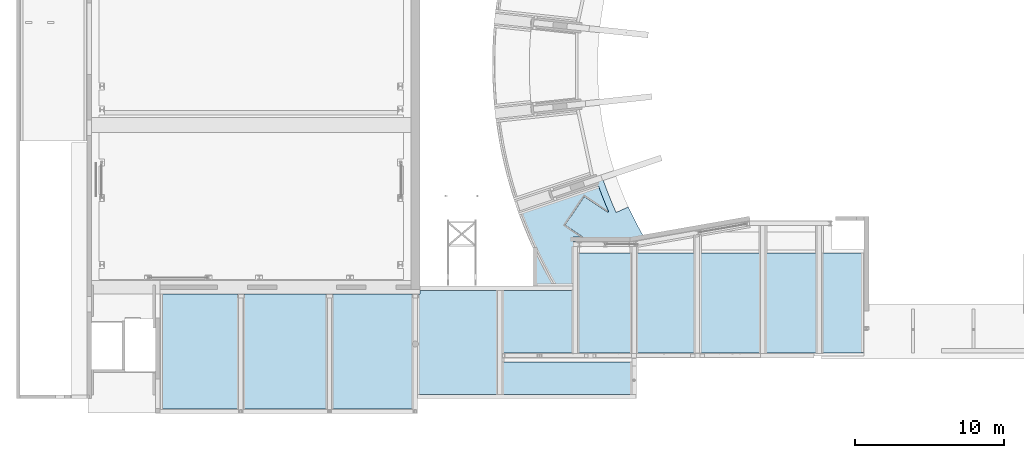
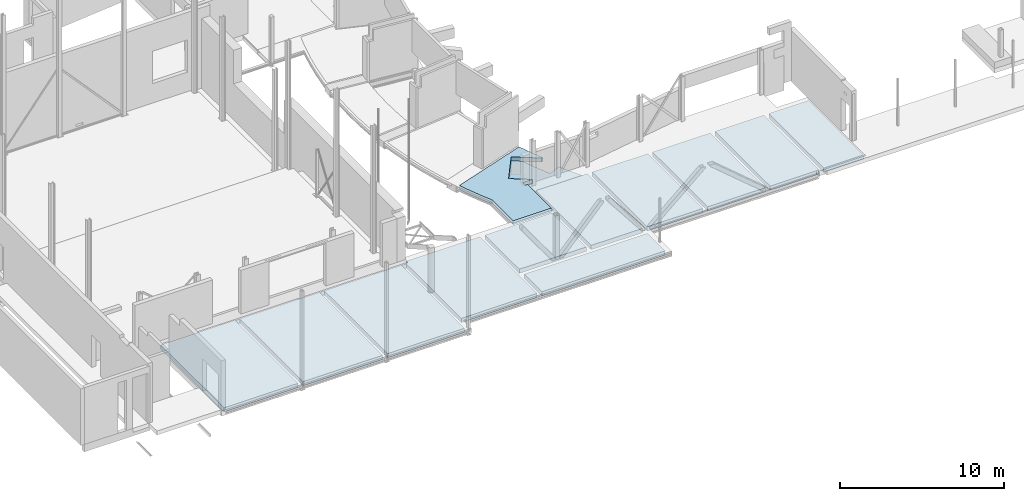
# One storey, part 23 of 37: 3 slabs, 20 openings.
"""IFC2X3 building model written with IfcOpenShell, lengths in millimetres."""

import ifcopenshell
import ifcopenshell.guid

model = None  # the IFC model being written
_history = None  # IfcOwnerHistory: only IFC2X3 demands one
_inside = {}  # id of a spatial element -> (the spatial element, [elements in it])
_under = {}  # id of a project, library or spatial element -> (it, [spatial elements below it])
_declared = {}  # id of a project -> (the project, [libraries it declares])
_typed = {}  # id of a type object -> (the type object, [elements of that type])
_made_of = {}  # id of a material, layer set ... -> (it, [elements and type objects made of it])


def new_model(schema):
    """Start an empty IFC model of exactly this schema.

    Asked for "IFC4X3", IfcOpenShell would pick the latest addendum, in which some entities
    have other attributes; the version numbers below select the first issue.
    IFC2X3 requires an IfcOwnerHistory on every rooted entity: one is made here for all.
    """
    global model, _history
    if schema == "IFC4X3":
        model = ifcopenshell.file(schema_version=(4, 3, 0, 0))
    else:
        model = ifcopenshell.file(schema=schema)
    _inside.clear()
    _under.clear()
    _declared.clear()
    _typed.clear()
    _made_of.clear()
    _history = None
    if model.schema == "IFC2X3":
        org = make("IfcOrganization", Name="unknown")
        user = make(
            "IfcPersonAndOrganization",
            ThePerson=make("IfcPerson", FamilyName="unknown"),
            TheOrganization=org,
        )
        app = make(
            "IfcApplication",
            ApplicationDeveloper=org,
            Version="unknown",
            ApplicationFullName="unknown",
            ApplicationIdentifier="unknown",
        )
        _history = make(
            "IfcOwnerHistory",
            OwningUser=user,
            OwningApplication=app,
            ChangeAction="ADDED",
            CreationDate=0,
        )
    return model


def make(cls, **values):
    """One entity of the class cls with the attributes given. An attribute that is None is left unset."""
    return model.create_entity(
        cls, **{name: value for name, value in values.items() if value is not None}
    )


def entity(cls, *values):
    """Any entity or typed value of the class cls, its attributes in the order of the schema. None: left unset."""
    e = model.create_entity(cls)
    for i, value in enumerate(values):
        if value is not None:
            e[i] = value
    return e


def rooted(cls, **values):
    """An entity with a GlobalId (a new one), such as an element, a storey or a relation."""
    return make(cls, GlobalId=ifcopenshell.guid.new(), OwnerHistory=_history, **values)


def si_unit(unit_type, name, prefix=None):
    """IfcSIUnit, for example si_unit("LENGTHUNIT", "METRE", prefix="MILLI")."""
    return make("IfcSIUnit", UnitType=unit_type, Prefix=prefix, Name=name)


def converted_unit(unit_type, name, factor, base, dimensions=None, offset=None):
    """IfcConversionBasedUnit, such as the inch: factor (a typed value) times the base unit."""
    return make(
        "IfcConversionBasedUnit"
        if offset is None
        else "IfcConversionBasedUnitWithOffset",
        ConversionOffset=offset,
        Dimensions=None
        if dimensions is None
        else entity("IfcDimensionalExponents", *dimensions),
        UnitType=unit_type,
        Name=name,
        ConversionFactor=make(
            "IfcMeasureWithUnit", ValueComponent=factor, UnitComponent=base
        ),
    )


def derived_unit(unit_type, elements):
    """IfcDerivedUnit: a product of units, each with its exponent."""
    return make(
        "IfcDerivedUnit",
        Elements=[
            make("IfcDerivedUnitElement", Unit=unit, Exponent=power)
            for unit, power in elements
        ],
        UnitType=unit_type,
    )


def assignment(units):
    """IfcUnitAssignment: the units of a project."""
    return None if units is None else make("IfcUnitAssignment", Units=units)


def point(xyz):
    """IfcCartesianPoint."""
    return None if xyz is None else make("IfcCartesianPoint", Coordinates=xyz)


def direction(xyz):
    """IfcDirection."""
    return None if xyz is None else make("IfcDirection", DirectionRatios=xyz)


def frame(location, z_axis=None, x_axis=None):
    """IfcAxis2Placement3D, a coordinate frame: its origin and axes. An axis left out is left unset."""
    return make(
        "IfcAxis2Placement3D",
        Location=point(location),
        Axis=direction(z_axis),
        RefDirection=direction(x_axis),
    )


def frame_2d(location, x_axis=None):
    """IfcAxis2Placement2D, a coordinate frame in the plane: its origin and x axis."""
    return make(
        "IfcAxis2Placement2D", Location=point(location), RefDirection=direction(x_axis)
    )


def origin():
    """The frame at (0, 0, 0) with its axes left unset."""
    return frame((0.0, 0.0, 0.0))


def origin_2d_with_axis():
    """The frame at (0, 0) in the plane with the x axis (1, 0) written out."""
    return frame_2d((0.0, 0.0), x_axis=(1.0, 0.0))


def place(relative_to, where):
    """IfcLocalPlacement: puts the frame where relative to a parent placement (None: the world)."""
    return make(
        "IfcLocalPlacement", PlacementRelTo=relative_to, RelativePlacement=where
    )


def context(
    kind, dimensions, precision=None, world=None, true_north=None, identifier=None
):
    """IfcGeometricRepresentationContext, for example the 3D "Model" context."""
    return make(
        "IfcGeometricRepresentationContext",
        ContextIdentifier=identifier,
        ContextType=kind,
        CoordinateSpaceDimension=dimensions,
        Precision=precision,
        WorldCoordinateSystem=world,
        TrueNorth=true_north,
    )


def subcontext(parent, identifier, kind, view, scale=None):
    """IfcGeometricRepresentationSubContext, for example "Body" below "Model"."""
    return make(
        "IfcGeometricRepresentationSubContext",
        ContextIdentifier=identifier,
        ContextType=kind,
        ParentContext=parent,
        TargetScale=scale,
        TargetView=view,
    )


def project(units=None, contexts=None):
    """IfcProject with its units and contexts."""
    return rooted(
        "IfcProject",
        Name="project",
        RepresentationContexts=contexts,
        UnitsInContext=assignment(units),
    )


def spatial(cls, under=None, at=None, **own):
    """A site, building, storey or space (cls), placed at a placement, below another one or the project."""
    s = rooted(cls, ObjectPlacement=at, **own)
    if under is not None:
        _under.setdefault(under.id(), (under, []))[1].append(s)
    return s


def polyline(points):
    """IfcPolyline through the points."""
    return make("IfcPolyline", Points=[point(p) for p in points])


def circle_curve(where, radius):
    """IfcCircle in the frame where."""
    return make("IfcCircle", Position=where, Radius=radius)


def parameter(value):
    """IfcParameterValue: where a trimmed curve begins or ends, as a parameter of its basis curve."""
    return model.create_entity("IfcParameterValue", value)


def trimmed(basis, trim1, trim2, sense, master):
    """IfcTrimmedCurve: the piece of a basis curve between two trims."""
    return make(
        "IfcTrimmedCurve",
        BasisCurve=basis,
        Trim1=trim1,
        Trim2=trim2,
        SenseAgreement=sense,
        MasterRepresentation=master,
    )


def segment(curve, same_sense, transition):
    """IfcCompositeCurveSegment."""
    return make(
        "IfcCompositeCurveSegment",
        Transition=transition,
        SameSense=same_sense,
        ParentCurve=curve,
    )


def composite_curve(segments, self_intersect=None):
    """IfcCompositeCurve: segments joined end to end."""
    return make("IfcCompositeCurve", Segments=segments, SelfIntersect=self_intersect)


def profile(cls, at=None, kind="AREA", **sizes):
    """A parametric profile (cls). Its sizes go by their IFC names, for example OverallWidth=200.0."""
    return make(cls, ProfileType=kind, Position=at, **sizes)


def rectangle(**sizes):
    """IfcRectangleProfileDef."""
    return profile("IfcRectangleProfileDef", **sizes)


def outline(outer, holes=None, kind="AREA"):
    """IfcArbitraryClosedProfileDef: a profile drawn as a closed curve; with holes, ...WithVoids."""
    if holes is None:
        return make("IfcArbitraryClosedProfileDef", ProfileType=kind, OuterCurve=outer)
    return make(
        "IfcArbitraryProfileDefWithVoids",
        ProfileType=kind,
        OuterCurve=outer,
        InnerCurves=holes,
    )


def extrude(swept, where, along, depth):
    """IfcExtrudedAreaSolid: the profile swept, set in the frame where, extruded along a direction by depth."""
    return make(
        "IfcExtrudedAreaSolid",
        SweptArea=swept,
        Position=where,
        ExtrudedDirection=direction(along),
        Depth=depth,
    )


def faces_of(points, faces, orient=None, outer=None):
    """IfcFace entities. A face is a list of loops; a loop is a list of indices into points, from 0.

    orient and outer hold one flag for each loop. By default every Orientation is true, the
    first loop of a face is its IfcFaceOuterBound and the others are IfcFaceBound.
    """
    made = []
    for i, loops in enumerate(faces):
        bounds = []
        for j, loop in enumerate(loops):
            is_outer = j == 0 if outer is None else outer[i][j]
            bounds.append(
                make(
                    "IfcFaceOuterBound" if is_outer else "IfcFaceBound",
                    Bound=make("IfcPolyLoop", Polygon=[points[k] for k in loop]),
                    Orientation=True if orient is None else orient[i][j],
                )
            )
        made.append(make("IfcFace", Bounds=bounds))
    return made


def faceted_brep(points, faces, orient=None, outer=None, voids=None):
    """IfcFacetedBrep: a solid bounded by flat faces; with voids (closed shells), ...WithVoids."""
    shared = [point(p) for p in points]
    hull = make("IfcClosedShell", CfsFaces=faces_of(shared, faces, orient, outer))
    if voids is None:
        return make("IfcFacetedBrep", Outer=hull)
    return make(
        "IfcFacetedBrepWithVoids",
        Outer=hull,
        Voids=[
            make(cls, CfsFaces=faces_of(shared, fs, o, b)) for cls, fs, o, b in voids
        ],
    )


def shape(context_of_items, identifier, shape_type, items):
    """IfcShapeRepresentation: the items that make up one representation, for example the "Body"."""
    return make(
        "IfcShapeRepresentation",
        ContextOfItems=context_of_items,
        RepresentationIdentifier=identifier,
        RepresentationType=shape_type,
        Items=items,
    )


def material(Name=None, Category=None):
    """IfcMaterial."""
    return make("IfcMaterial", Name=Name, Category=Category)


def layer(
    of_material, thickness, ventilated=None, Name=None, Category=None, Priority=None
):
    """IfcMaterialLayer: one layer of a wall or slab, of a material (None: an air gap)."""
    return make(
        "IfcMaterialLayer",
        Material=of_material,
        LayerThickness=thickness,
        IsVentilated=ventilated,
        Name=Name,
        Category=Category,
        Priority=Priority,
    )


def layer_set(layers, Name=None):
    """IfcMaterialLayerSet."""
    return make("IfcMaterialLayerSet", MaterialLayers=layers, LayerSetName=Name)


def layer_usage(for_layer_set, set_direction, sense, offset, extent=None):
    """IfcMaterialLayerSetUsage: how a layer set lies in its element."""
    return make(
        "IfcMaterialLayerSetUsage",
        ForLayerSet=for_layer_set,
        LayerSetDirection=set_direction,
        DirectionSense=sense,
        OffsetFromReferenceLine=offset,
        ReferenceExtent=extent,
    )


def made_of(thing, what):
    """Note that an element or type object is made of a material, layer set ...; save() writes the relation."""
    if what is not None:
        _made_of.setdefault(what.id(), (what, []))[1].append(thing)
    return thing


def type_object(cls, material=None, **own):
    """A type object (cls), such as IfcWallType, which elements share."""
    return made_of(rooted(cls, **own), material)


def element(
    cls,
    number,
    at=None,
    inside=None,
    cuts=None,
    type_object=None,
    material=None,
    context=None,
    identifier="Body",
    shape_type=None,
    held_by="IfcProductDefinitionShape",
    body=None,
    shapes=None,
    **own,
):
    """One element of the class cls, such as IfcWall. Its Tag is "e" and its number.

    at: its placement. inside: the storey or other place that contains it. cuts: it is an
    opening in that element (IfcRelVoidsElement). A single representation is given by context,
    identifier, shape_type and body (its items); several are given by shapes. held_by: the class
    of the entity that holds the representations. save() writes the other relations.
    """
    e = rooted(cls, Tag="e%d" % number, ObjectPlacement=at, **own)
    if body is not None:
        shapes = [shape(context, identifier, shape_type, body)]
    if shapes is not None:
        e.Representation = make(held_by, Representations=shapes)
    if inside is not None:
        _inside.setdefault(inside.id(), (inside, []))[1].append(e)
    if cuts is not None:
        rooted(
            "IfcRelVoidsElement", RelatingBuildingElement=cuts, RelatedOpeningElement=e
        )
    if type_object is not None:
        _typed.setdefault(type_object.id(), (type_object, []))[1].append(e)
    return made_of(e, material)


def aggregate(whole, parts):
    """IfcRelAggregates: a whole, such as a stair, and the parts it consists of."""
    return rooted("IfcRelAggregates", RelatingObject=whole, RelatedObjects=parts)


def save(model, path):
    """Write the relations noted so far, then the file.

    IfcRelAggregates (storeys below a building ...), IfcRelContainedInSpatialStructure (elements
    in a storey), IfcRelDefinesByType, IfcRelAssociatesMaterial and IfcRelDeclares: one each for
    every whole, place, type object, material and project.
    """
    for whole, parts in _under.values():
        aggregate(whole, parts)
    for where, things in _inside.values():
        rooted(
            "IfcRelContainedInSpatialStructure",
            RelatedElements=things,
            RelatingStructure=where,
        )
    for kind, things in _typed.values():
        rooted("IfcRelDefinesByType", RelatedObjects=things, RelatingType=kind)
    for what, things in _made_of.values():
        rooted("IfcRelAssociatesMaterial", RelatedObjects=things, RelatingMaterial=what)
    for by, libraries in _declared.values():
        rooted("IfcRelDeclares", RelatingContext=by, RelatedDefinitions=libraries)
    model.write(path)


model = new_model("IFC2X3")

# Units and contexts
model_context = context("Model", 3, precision=0.01, world=origin(), true_north=direction((6.12303176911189e-17, 1.0)))
body_context = subcontext(model_context, "Body", "Model", "MODEL_VIEW")
ifc_project = project(units=[si_unit("LENGTHUNIT", "METRE", prefix="MILLI"), si_unit("AREAUNIT", "SQUARE_METRE", prefix="MILLI"), si_unit("VOLUMEUNIT", "CUBIC_METRE"), converted_unit("PLANEANGLEUNIT", "DEGREE", entity("IfcRatioMeasure", 0.0174532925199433), si_unit("PLANEANGLEUNIT", "RADIAN"), dimensions=[0, 0, 0, 0, 0, 0, 0]), si_unit("MASSUNIT", "GRAM", prefix="KILO"), derived_unit("MASSDENSITYUNIT", [(si_unit("MASSUNIT", "GRAM", prefix="KILO"), 1), (si_unit("LENGTHUNIT", "METRE"), -3)]), derived_unit("MOMENTOFINERTIAUNIT", [(si_unit("LENGTHUNIT", "METRE"), 4)]), si_unit("TIMEUNIT", "SECOND"), si_unit("FREQUENCYUNIT", "HERTZ"), si_unit("THERMODYNAMICTEMPERATUREUNIT", "DEGREE_CELSIUS"), derived_unit("THERMALTRANSMITTANCEUNIT", [(si_unit("MASSUNIT", "GRAM", prefix="KILO"), 1), (si_unit("THERMODYNAMICTEMPERATUREUNIT", "KELVIN"), -1), (si_unit("TIMEUNIT", "SECOND"), -3)]), derived_unit("VOLUMETRICFLOWRATEUNIT", [(si_unit("LENGTHUNIT", "METRE"), 3), (si_unit("TIMEUNIT", "SECOND"), -1)]), si_unit("ELECTRICCURRENTUNIT", "AMPERE"), si_unit("ELECTRICVOLTAGEUNIT", "VOLT"), si_unit("POWERUNIT", "WATT"), si_unit("FORCEUNIT", "NEWTON", prefix="KILO"), si_unit("ILLUMINANCEUNIT", "LUX"), si_unit("LUMINOUSFLUXUNIT", "LUMEN"), si_unit("LUMINOUSINTENSITYUNIT", "CANDELA"), derived_unit("USERDEFINED", [(si_unit("MASSUNIT", "GRAM", prefix="KILO"), -1), (si_unit("LENGTHUNIT", "METRE"), -2), (si_unit("TIMEUNIT", "SECOND"), 3), (si_unit("LUMINOUSFLUXUNIT", "LUMEN"), 1)]), derived_unit("LINEARVELOCITYUNIT", [(si_unit("LENGTHUNIT", "METRE"), 1), (si_unit("TIMEUNIT", "SECOND"), -1)]), si_unit("PRESSUREUNIT", "PASCAL"), derived_unit("USERDEFINED", [(si_unit("LENGTHUNIT", "METRE"), -2), (si_unit("MASSUNIT", "GRAM", prefix="KILO"), 1), (si_unit("TIMEUNIT", "SECOND"), -2)]), derived_unit("LINEARFORCEUNIT", [(si_unit("MASSUNIT", "GRAM", prefix="KILO"), 1), (si_unit("LENGTHUNIT", "METRE"), 1), (si_unit("TIMEUNIT", "SECOND"), -2), (si_unit("LENGTHUNIT", "METRE"), -1)]), derived_unit("PLANARFORCEUNIT", [(si_unit("MASSUNIT", "GRAM", prefix="KILO"), 1), (si_unit("LENGTHUNIT", "METRE"), 1), (si_unit("TIMEUNIT", "SECOND"), -2), (si_unit("LENGTHUNIT", "METRE"), -2)])], contexts=[model_context])

# Site, building, storey
site_placement = place(None, origin())
site = spatial("IfcSite", under=ifc_project, at=site_placement, Name="Theater aan de Parade", CompositionType="ELEMENT")
building_placement = place(site_placement, origin())
building = spatial("IfcBuilding", under=site, at=building_placement, Name="Theater aan de Parade", CompositionType="ELEMENT")
storey_placement = place(building_placement, frame((0.0, 0.0, 5020.0)))
storey = spatial("IfcBuildingStorey", under=building, at=storey_placement, Name="01 eerste verdieping", CompositionType="ELEMENT", Elevation=5020.0)

# Slab
ifc_material_1 = material(Name="00_PBT_MAT_beton t.p.g.")
ifc_layer_1 = layer(ifc_material_1, 490.0)
ifc_layer_set_1 = layer_set([ifc_layer_1], Name="Floor:28_PBT_FL_beton t.p.g._d=490_bestaand")
ifc_layer_usage_1 = layer_usage(ifc_layer_set_1, "AXIS3", "POSITIVE", 0.0)
slab_type_1 = type_object("IfcSlabType", Name="Floor:28_PBT_FL_beton t.p.g._d=490_bestaand", PredefinedType="FLOOR", material=ifc_layer_set_1)
slab_1_placement = place(storey_placement, origin())
element("IfcSlab", 1, at=slab_1_placement, inside=storey, type_object=slab_type_1, material=ifc_layer_usage_1, Name="Floor:28_PBT_FL_beton t.p.g._d=490_bestaand", ObjectType="Floor:28_PBT_FL_beton t.p.g._d=490_bestaand", PredefinedType="FLOOR", context=body_context, shape_type="SweptSolid", body=[
    extrude(outline(composite_curve([segment(polyline([(-1650.64059162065, -1758.53778649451), (2478.36577756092, -1758.5377864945)]), True, "CONTINUOUS"), segment(trimmed(circle_curve(frame_2d((-22300.3028341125, 10061.4622135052), x_axis=(0.902568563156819, -0.430546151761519)), 27453.5028396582), [parameter(0.0)], [parameter(7.46901130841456)], True, "PARAMETER"), True, "CONTINUOUS"), segment(polyline([(3804.6076632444, 1562.72900836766), (273.387526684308, 2744.26305707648)]), True, "CONTINUOUS"), segment(trimmed(circle_curve(frame_2d((-22300.3028341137, 10061.4622135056), x_axis=(0.951272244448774, -0.308352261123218)), 23730.0000000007), [parameter(353.428540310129)], [parameter(0.0)], True, "PARAMETER"), False, "CONTINUOUS"), segment(polyline([(-712.321197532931, 208.95243890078), (-1531.08156301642, 582.625375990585)]), True, "CONTINUOUS"), segment(trimmed(circle_curve(frame_2d((-22300.30283411, 10061.4622135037), x_axis=(0.909733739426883, -0.415192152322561)), 22829.9999999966), [parameter(353.868590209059)], [parameter(0.0)], True, "PARAMETER"), False, "CONTINUOUS"), segment(polyline([(-2662.31761531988, -1581.49430734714), (-1650.64059162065, -1758.53778649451)]), True, "CONTINUOUS")], self_intersect=False)), frame((49959.697165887, 22388.5377864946, -1420.0), z_axis=(0.0, 0.0, -1.0), x_axis=(-1.0, 0.0, 0.0)), (0.0, 0.0, 1.0), 290.0),
])

# Slab, openings
ifc_material_2 = material(Name="00_PBT_MAT_systeemvloer")
ifc_layer_2 = layer(ifc_material_2, 320.0)
ifc_layer_set_2 = layer_set([ifc_layer_2], Name="Floor:28_PBT_FL_kanaalplaat_d=320")
ifc_layer_usage_2 = layer_usage(ifc_layer_set_2, "AXIS3", "POSITIVE", 0.0)
slab_type_2 = type_object("IfcSlabType", Name="Floor:28_PBT_FL_kanaalplaat_d=320", PredefinedType="FLOOR")
slab_2_placement = place(storey_placement, frame((20003.857002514, 9357.0, -460.0)))
slab_2 = element("IfcSlab", 2, at=slab_2_placement, inside=storey, type_object=slab_type_2, material=ifc_layer_usage_2, Name="Floor:28_PBT_FL_kanaalplaat_d=320", ObjectType="Floor:28_PBT_FL_kanaalplaat_d=320", PredefinedType="FLOOR", context=body_context, shape_type="SweptSolid", body=[
    extrude(outline(polyline([(6513.69842165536, -6192.74707946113), (23656.1995492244, -6192.74707946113), (23656.1995492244, 1799.63837251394), (6206.1984216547, 1799.63837251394), (6206.1984216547, 2188.574301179), (-4268.10496909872, 2188.574301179), (-4268.10496909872, 4554.67007438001), (-23656.1995492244, 4554.67007437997), (-23656.1995492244, -2161.67007438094), (-20334.49552377, -2161.67007438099), (-20334.49552377, -2356.67007438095), (815.504476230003, -2356.67007438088), (815.504476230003, -2791.67007438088), (-8208.4986079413, -2791.67007438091), (-8208.4986079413, -5114.67007438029), (6513.69842165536, -5114.67007438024), (6513.69842165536, -6192.74707946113)])), frame((23656.1995492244, 5954.67007438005, 320.0), z_axis=(0.0, 0.0, -1.0), x_axis=(-1.0, 0.0, 0.0)), (0.0, 0.0, 1.0), 320.0),
])
opening_1_placement = place(slab_2_placement, origin())
element("IfcOpeningElement", 3, at=opening_1_placement, cuts=slab_2, ObjectType="Opening", context=body_context, shape_type="SweptSolid", body=[
    extrude(rectangle(XDim=8014.30844689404, YDim=339.999999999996, at=origin_2d_with_axis()), frame((5406.14299748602, 3707.15422344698, -85.0), z_axis=(0.0, 0.0, 1.0), x_axis=(0.0, -1.0, 0.0)), (0.0, 0.0, 1.0), 405.0),
])
opening_2_placement = place(slab_2_placement, origin())
element("IfcOpeningElement", 4, at=opening_2_placement, cuts=slab_2, ObjectType="Opening", context=body_context, shape_type="SweptSolid", body=[
    extrude(rectangle(XDim=8014.30844689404, YDim=339.999999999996, at=origin_2d_with_axis()), frame((11371.142997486, 3707.15422344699, -85.0), z_axis=(0.0, 0.0, 1.0), x_axis=(0.0, -1.0, 0.0)), (0.0, 0.0, 1.0), 405.0),
])
opening_3_placement = place(slab_2_placement, origin())
element("IfcOpeningElement", 5, at=opening_3_placement, cuts=slab_2, ObjectType="Opening", context=body_context, shape_type="SweptSolid", body=[
    extrude(rectangle(XDim=8014.30844689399, YDim=339.999999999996, at=origin_2d_with_axis()), frame((17150.0011275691, 3707.15422344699, -85.0), z_axis=(0.0, 0.0, 1.0), x_axis=(0.0, -1.0, 0.0)), (0.0, 0.0, 1.0), 405.0),
])
opening_4_placement = place(slab_2_placement, origin())
element("IfcOpeningElement", 6, at=opening_4_placement, cuts=slab_2, ObjectType="Opening", context=body_context, shape_type="SweptSolid", body=[
    extrude(rectangle(XDim=5665.00000000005, YDim=320.000000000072, at=origin_2d_with_axis()), frame((8388.642997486, -160.0, 0.0), z_axis=(0.0, 0.0, 1.0), x_axis=(-1.0, 0.0, 0.0)), (0.0, 0.0, 1.0), 320.0),
])
opening_5_placement = place(slab_2_placement, origin())
element("IfcOpeningElement", 7, at=opening_5_placement, cuts=slab_2, ObjectType="Opening", context=body_context, shape_type="SweptSolid", body=[
    extrude(rectangle(XDim=320.000000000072, YDim=5306.14299748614, at=origin_2d_with_axis()), frame((2603.07149874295, -160.0, 0.0), z_axis=(0.0, 0.0, 1.0), x_axis=(0.0, -1.0, 0.0)), (0.0, 0.0, 1.0), 320.0),
])
opening_6_placement = place(slab_2_placement, origin())
element("IfcOpeningElement", 8, at=opening_6_placement, cuts=slab_2, ObjectType="Opening", context=body_context, shape_type="SweptSolid", body=[
    extrude(rectangle(XDim=320.000000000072, YDim=5478.85813008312, at=origin_2d_with_axis()), frame((14260.5720625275, -160.0, 0.0), z_axis=(0.0, 0.0, 1.0), x_axis=(0.0, -1.0, 0.0)), (0.0, 0.0, 1.0), 320.0),
])
opening_7_placement = place(slab_2_placement, origin())
element("IfcOpeningElement", 9, at=opening_7_placement, cuts=slab_2, ObjectType="Opening", context=body_context, shape_type="SweptSolid", body=[
    extrude(rectangle(XDim=320.000000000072, YDim=14711.4470295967, at=origin_2d_with_axis()), frame((24655.7246423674, 840.0, 0.0), z_axis=(0.0, 0.0, 1.0), x_axis=(0.0, -1.0, 0.0)), (0.0, 0.0, 1.0), 320.0),
])
opening_8_placement = place(slab_2_placement, origin())
element("IfcOpeningElement", 10, at=opening_8_placement, cuts=slab_2, ObjectType="Opening", context=body_context, shape_type="SweptSolid", body=[
    extrude(rectangle(XDim=339.999999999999, YDim=10317.5533907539, at=origin_2d_with_axis()), frame((22608.7778229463, 8143.24437555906, -5.0), z_axis=(0.0, 0.0, 1.0), x_axis=(0.0, -1.0, 0.0)), (0.0, 0.0, 1.0), 324.999999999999),
])
opening_9_placement = place(slab_2_placement, origin())
element("IfcOpeningElement", 11, at=opening_9_placement, cuts=slab_2, ObjectType="Opening", context=body_context, shape_type="SweptSolid", body=[
    extrude(rectangle(XDim=21300.0, YDim=339.999999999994, at=origin_2d_with_axis()), frame((33340.6950729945, 3598.0, -80.0), z_axis=(0.0, 0.0, 1.0), x_axis=(-1.0, 0.0, 0.0)), (0.0, 0.0, 1.0), 560.0),
])
opening_10_placement = place(slab_2_placement, origin())
element("IfcOpeningElement", 12, at=opening_10_placement, cuts=slab_2, ObjectType="Opening", context=body_context, shape_type="SweptSolid", body=[
    extrude(rectangle(XDim=339.999999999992, YDim=3773.05748386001, at=origin_2d_with_axis()), frame((29654.0832602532, 11088.0, 0.0), z_axis=(0.0, 0.0, 1.0), x_axis=(0.0, 1.0, 0.0)), (0.0, 0.0, 1.0), 320.0),
])
opening_11_placement = place(slab_2_placement, origin())
element("IfcOpeningElement", 13, at=opening_11_placement, cuts=slab_2, ObjectType="Opening", context=body_context, shape_type="SweptSolid", body=[
    extrude(rectangle(XDim=8227.18093451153, YDim=340.000000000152, at=origin_2d_with_axis()), frame((35600.5291465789, 11784.1470188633, -5.0), z_axis=(0.0, 0.0, 1.0), x_axis=(-0.985030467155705, -0.172380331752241, 0.0)), (0.0, 0.0, 1.0), 325.0),
])
opening_12_placement = place(slab_2_placement, origin())
element("IfcOpeningElement", 14, at=opening_12_placement, cuts=slab_2, ObjectType="Opening", context=body_context, shape_type="SweptSolid", body=[
    extrude(rectangle(XDim=339.999999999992, YDim=5553.16081909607, at=origin_2d_with_axis()), frame((42431.6146634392, 12498.0, 0.0), z_axis=(0.0, 0.0, 1.0), x_axis=(0.0, 1.0, 0.0)), (0.0, 0.0, 1.0), 330.0),
])
opening_13_placement = place(slab_2_placement, origin())
element("IfcOpeningElement", 15, at=opening_13_placement, cuts=slab_2, ObjectType="Opening", context=body_context, shape_type="SweptSolid", body=[
    extrude(rectangle(XDim=340.000000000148, YDim=2467.99999999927, at=origin_2d_with_axis()), frame((31871.4481571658, 2214.0, -5.0), z_axis=(0.0, 0.0, 1.0), x_axis=(-1.0, 0.0, 0.0)), (0.0, 0.0, 1.0), 404.999999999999),
])
opening_14_placement = place(slab_2_placement, frame((22570.6950729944, 980.0, -85.0)))
element("IfcOpeningElement", 16, at=opening_14_placement, cuts=slab_2, ObjectType="Opening", context=body_context, shape_type="Brep", body=[
    faceted_brep([(0.0, 0.0, 2.0), (0.0, 0.0, 1.0), (100.0, 0.0, 1.0), (440.0, 0.0, 1.0), (100.0, 0.0, 0.0), (440.0, 0.0, 0.0), (540.0, 0.0, 2.0), (540.0, 0.0, 1.0), (440.0, 0.0, 2.0), (440.0, 0.0, 405.0), (100.0, 0.0, 405.0), (100.0, 0.0, 2.0), (100.0, 7013.24437555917, 1.0), (0.0, 7013.24437555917, 1.0), (0.0, 7013.24437555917, 2.0), (100.0, 7013.24437555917, 0.0), (440.0, 7013.24437555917, 1.0), (440.0, 7013.24437555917, 0.0), (540.0, 7013.24437555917, 1.0), (540.0, 7013.24437555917, 2.0), (440.0, 7013.24437555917, 2.0), (100.0, 7013.24437555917, 2.0), (100.0, 7013.24437555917, 405.0), (440.0, 7013.24437555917, 405.0), (440.0, 500.0, 1.0), (440.0, 500.0, 2.0), (440.0, 6863.24437555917, 1.0), (440.0, 6863.24437555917, 2.0), (100.0, 400.0, 2.0), (100.0, 400.0, 1.0), (100.0, 6913.24437555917, 1.0), (100.0, 6913.24437555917, 2.0), (540.0, 6863.24437555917, 2.0), (540.0, 6863.24437555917, 1.0), (0.0, 6913.24437555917, 2.0), (0.0, 6913.24437555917, 1.0), (540.0, 500.0, 2.0), (540.0, 500.0, 1.0), (0.0, 400.0, 2.0), (0.0, 400.0, 1.0)], [[[0, 1, 2]], [[3, 2, 4]], [[4, 5, 3]], [[6, 3, 7]], [[3, 8, 2]], [[9, 10, 11]], [[2, 8, 11]], [[8, 3, 6]], [[11, 8, 9]], [[11, 0, 2]], [[12, 13, 14]], [[15, 12, 16]], [[16, 17, 15]], [[18, 16, 19]], [[12, 20, 16]], [[21, 22, 23]], [[21, 20, 12]], [[19, 16, 20]], [[23, 20, 21]], [[12, 14, 21]], [[5, 24, 3]], [[24, 5, 17]], [[9, 8, 25]], [[9, 25, 23]], [[24, 26, 25]], [[26, 17, 16]], [[17, 26, 24]], [[27, 20, 23]], [[27, 23, 25]], [[26, 27, 25]], [[10, 9, 23]], [[23, 22, 10]], [[10, 28, 11]], [[28, 10, 22]], [[4, 2, 29]], [[4, 29, 15]], [[28, 30, 29]], [[31, 22, 21]], [[22, 31, 28]], [[30, 12, 15]], [[30, 15, 29]], [[31, 30, 28]], [[5, 4, 15]], [[15, 17, 5]], [[20, 27, 32]], [[32, 19, 20]], [[18, 33, 26]], [[26, 16, 18]], [[32, 27, 26]], [[26, 33, 32]], [[19, 32, 33]], [[33, 18, 19]], [[34, 31, 21]], [[21, 14, 34]], [[13, 12, 35]], [[30, 35, 12]], [[34, 14, 13]], [[13, 35, 34]], [[31, 34, 35]], [[35, 30, 31]], [[25, 8, 36]], [[6, 36, 8]], [[37, 7, 24]], [[3, 24, 7]], [[36, 6, 7]], [[7, 37, 36]], [[25, 36, 37]], [[37, 24, 25]], [[38, 0, 28]], [[11, 28, 0]], [[29, 2, 1]], [[1, 39, 29]], [[38, 28, 29]], [[29, 39, 38]], [[0, 38, 39]], [[39, 1, 0]]]),
])
opening_15_placement = place(slab_2_placement, frame((27647.5545183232, 3748.0, -85.0)))
element("IfcOpeningElement", 17, at=opening_15_placement, cuts=slab_2, ObjectType="Opening", context=body_context, shape_type="Brep", body=[
    faceted_brep([(0.0, 0.0, 2.0), (0.0, 0.0, 1.0), (100.0, 0.0, 1.0), (440.0, 0.0, 1.0), (100.0, 0.0, 0.0), (440.0, 0.0, 0.0), (540.0, 0.0, 2.0), (540.0, 0.0, 1.0), (440.0, 0.0, 2.0), (440.0, 0.0, 405.0), (100.0, 0.0, 405.0), (100.0, 0.0, 2.0), (100.0, 7190.0, 1.0), (0.0, 7190.0, 1.0), (0.0, 7190.0, 2.0), (100.0, 7190.0, 0.0), (440.0, 7190.0, 1.0), (440.0, 7190.0, 0.0), (540.0, 7190.0, 1.0), (540.0, 7190.0, 2.0), (440.0, 7190.0, 2.0), (100.0, 7190.0, 2.0), (100.0, 7190.0, 405.0), (440.0, 7190.0, 405.0), (440.0, 500.0, 1.0), (440.0, 500.0, 2.0), (440.0, 7040.0, 1.0), (440.0, 7040.0, 2.0), (100.0, 400.0, 2.0), (100.0, 400.0, 1.0), (100.0, 7090.0, 1.0), (100.0, 7090.0, 2.0), (540.0, 7040.0, 2.0), (540.0, 7040.0, 1.0), (0.0, 7090.0, 2.0), (0.0, 7090.0, 1.0), (540.0, 500.0, 2.0), (540.0, 500.0, 1.0), (0.0, 400.0, 2.0), (0.0, 400.0, 1.0)], [[[0, 1, 2]], [[3, 2, 4]], [[4, 5, 3]], [[6, 3, 7]], [[3, 8, 2]], [[9, 10, 11]], [[2, 8, 11]], [[8, 3, 6]], [[11, 8, 9]], [[11, 0, 2]], [[12, 13, 14]], [[15, 12, 16]], [[16, 17, 15]], [[18, 16, 19]], [[12, 20, 16]], [[21, 22, 23]], [[21, 20, 12]], [[19, 16, 20]], [[23, 20, 21]], [[12, 14, 21]], [[5, 24, 3]], [[24, 5, 17]], [[9, 8, 25]], [[9, 25, 23]], [[24, 26, 25]], [[26, 17, 16]], [[17, 26, 24]], [[27, 20, 23]], [[27, 23, 25]], [[26, 27, 25]], [[10, 9, 23]], [[23, 22, 10]], [[10, 28, 11]], [[28, 10, 22]], [[4, 2, 29]], [[4, 29, 15]], [[28, 30, 29]], [[31, 22, 21]], [[22, 31, 28]], [[30, 12, 15]], [[30, 15, 29]], [[31, 30, 28]], [[5, 4, 15]], [[15, 17, 5]], [[20, 27, 32]], [[32, 19, 20]], [[18, 33, 16]], [[26, 16, 33]], [[32, 27, 26]], [[26, 33, 32]], [[19, 32, 33]], [[33, 18, 19]], [[34, 31, 21]], [[21, 14, 34]], [[13, 12, 30]], [[30, 35, 13]], [[34, 14, 13]], [[13, 35, 34]], [[31, 34, 35]], [[35, 30, 31]], [[25, 8, 36]], [[6, 36, 8]], [[37, 7, 24]], [[3, 24, 7]], [[36, 6, 7]], [[7, 37, 36]], [[25, 36, 37]], [[37, 24, 25]], [[38, 0, 11]], [[11, 28, 38]], [[29, 2, 1]], [[1, 39, 29]], [[38, 28, 29]], [[29, 39, 38]], [[0, 38, 39]], [[39, 1, 0]]]),
])
opening_16_placement = place(slab_2_placement, frame((35865.6950729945, 3768.0, -85.0)))
element("IfcOpeningElement", 18, at=opening_16_placement, cuts=slab_2, ObjectType="Opening", context=body_context, shape_type="Brep", body=[
    faceted_brep([(100.0, 0.0, 405.0), (440.0, 0.0, 405.0), (440.0, 7957.52150220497, 405.0), (100.0, 7957.52150220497, 405.0), (0.0, 0.0, 2.0), (0.0, 0.0, 1.0), (100.0, 0.0, 1.0), (440.0, 0.0, 1.0), (100.0, 0.0, 0.0), (440.0, 0.0, 0.0), (540.0, 0.0, 2.0), (540.0, 0.0, 1.0), (440.0, 0.0, 2.0), (100.0, 0.0, 2.0), (100.0, 7957.52150220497, 1.0), (0.0, 7957.52150220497, 1.0), (0.0, 7957.52150220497, 2.0), (100.0, 7957.52150220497, 0.0), (440.0, 7957.52150220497, 1.0), (440.0, 7957.52150220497, 0.0), (540.0, 7957.52150220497, 1.0), (540.0, 7957.52150220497, 2.0), (440.0, 7957.52150220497, 2.0), (100.0, 7957.52150220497, 2.0), (440.0, 500.0, 1.0), (440.0, 500.0, 2.0), (440.0, 7807.52150220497, 1.0), (440.0, 7807.52150220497, 2.0), (100.0, 400.0, 2.0), (100.0, 400.0, 1.0), (100.0, 7857.52150220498, 1.0), (100.0, 7857.52150220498, 2.0), (540.0, 7807.52150220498, 2.0), (540.0, 7807.52150220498, 1.0), (0.0, 7857.52150220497, 2.0), (0.0, 7857.52150220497, 1.0), (540.0, 500.0, 2.0), (540.0, 500.0, 1.0), (0.0, 400.0, 2.0), (0.0, 400.0, 1.0)], [[[0, 1, 2]], [[2, 3, 0]], [[4, 5, 6]], [[7, 6, 8]], [[8, 9, 7]], [[10, 7, 11]], [[7, 12, 6]], [[1, 0, 13]], [[6, 12, 13]], [[12, 7, 10]], [[13, 12, 1]], [[13, 4, 6]], [[14, 15, 16]], [[17, 14, 18]], [[18, 19, 17]], [[20, 18, 21]], [[14, 22, 18]], [[23, 3, 2]], [[23, 22, 14]], [[21, 18, 22]], [[2, 22, 23]], [[14, 16, 23]], [[9, 24, 7]], [[24, 9, 19]], [[1, 12, 25]], [[1, 25, 2]], [[24, 26, 25]], [[26, 19, 18]], [[19, 26, 24]], [[27, 22, 2]], [[27, 2, 25]], [[26, 27, 25]], [[0, 28, 13]], [[28, 0, 3]], [[8, 6, 29]], [[8, 29, 17]], [[28, 30, 29]], [[31, 3, 23]], [[3, 31, 28]], [[30, 14, 17]], [[30, 17, 29]], [[31, 30, 28]], [[9, 8, 17]], [[17, 19, 9]], [[22, 27, 32]], [[32, 21, 22]], [[20, 33, 18]], [[26, 18, 33]], [[32, 27, 26]], [[26, 33, 32]], [[21, 32, 33]], [[33, 20, 21]], [[34, 31, 23]], [[23, 16, 34]], [[15, 14, 30]], [[30, 35, 15]], [[34, 16, 15]], [[15, 35, 34]], [[31, 34, 35]], [[35, 30, 31]], [[25, 12, 10]], [[10, 36, 25]], [[37, 11, 7]], [[7, 24, 37]], [[36, 10, 11]], [[11, 37, 36]], [[25, 36, 37]], [[37, 24, 25]], [[38, 4, 13]], [[13, 28, 38]], [[29, 6, 5]], [[5, 39, 29]], [[38, 28, 29]], [[29, 39, 38]], [[4, 38, 39]], [[39, 5, 4]]]),
])
opening_17_placement = place(slab_2_placement, frame((44070.6950729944, 3748.0, -85.0)))
element("IfcOpeningElement", 19, at=opening_17_placement, cuts=slab_2, ObjectType="Opening", context=body_context, shape_type="Brep", body=[
    faceted_brep([(100.0, 0.0, 405.0), (440.0, 0.0, 405.0), (100.0, 8600.0, 405.0), (440.0, 8600.0, 405.0), (0.0, 0.0, 2.0), (0.0, 0.0, 1.0), (100.0, 0.0, 1.0), (440.0, 0.0, 1.0), (100.0, 0.0, 0.0), (440.0, 0.0, 0.0), (540.0, 0.0, 2.0), (540.0, 0.0, 1.0), (440.0, 0.0, 2.0), (100.0, 0.0, 2.0), (100.0, 8600.0, 1.0), (0.0, 8600.0, 1.0), (0.0, 8600.0, 2.0), (100.0, 8600.0, 0.0), (440.0, 8600.0, 1.0), (440.0, 8600.0, 0.0), (540.0, 8600.0, 1.0), (540.0, 8600.0, 2.0), (440.0, 8600.0, 2.0), (100.0, 8600.0, 2.0), (440.0, 500.0, 1.0), (440.0, 500.0, 2.0), (440.0, 8450.0, 1.0), (440.0, 8450.0, 2.0), (100.0, 400.0, 2.0), (100.0, 400.0, 1.0), (100.0, 8500.0, 1.0), (100.0, 8500.0, 2.0), (540.0, 8450.0, 2.0), (540.0, 8450.0, 1.0), (0.0, 8500.0, 2.0), (0.0, 8500.0, 1.0), (540.0, 500.0, 2.0), (540.0, 500.0, 1.0), (0.0, 400.0, 2.0), (0.0, 400.0, 1.0)], [[[0, 1, 2]], [[3, 2, 1]], [[4, 5, 6]], [[7, 6, 8]], [[8, 9, 7]], [[10, 7, 11]], [[7, 12, 6]], [[1, 0, 13]], [[6, 12, 13]], [[12, 7, 10]], [[13, 12, 1]], [[13, 4, 6]], [[14, 15, 16]], [[17, 14, 18]], [[18, 19, 17]], [[20, 18, 21]], [[14, 22, 18]], [[23, 2, 3]], [[23, 22, 14]], [[21, 18, 22]], [[3, 22, 23]], [[14, 16, 23]], [[9, 24, 7]], [[24, 9, 19]], [[1, 12, 25]], [[1, 25, 3]], [[24, 26, 25]], [[26, 19, 18]], [[19, 26, 24]], [[27, 22, 3]], [[27, 3, 25]], [[26, 27, 25]], [[0, 28, 13]], [[28, 0, 2]], [[8, 6, 29]], [[8, 29, 17]], [[28, 30, 29]], [[31, 2, 23]], [[2, 31, 28]], [[30, 14, 17]], [[30, 17, 29]], [[31, 30, 28]], [[9, 8, 19]], [[17, 19, 8]], [[22, 27, 32]], [[32, 21, 22]], [[20, 33, 18]], [[26, 18, 33]], [[32, 27, 26]], [[26, 33, 32]], [[21, 32, 33]], [[33, 20, 21]], [[34, 31, 23]], [[23, 16, 34]], [[15, 14, 30]], [[30, 35, 15]], [[34, 16, 15]], [[15, 35, 34]], [[31, 34, 35]], [[35, 30, 31]], [[25, 12, 10]], [[10, 36, 25]], [[37, 11, 7]], [[7, 24, 37]], [[36, 10, 11]], [[11, 37, 36]], [[25, 36, 37]], [[37, 24, 25]], [[38, 4, 13]], [[13, 28, 38]], [[29, 6, 5]], [[5, 39, 29]], [[38, 28, 29]], [[29, 39, 38]], [[4, 38, 39]], [[39, 5, 4]]]),
])
opening_18_placement = place(slab_2_placement, frame((31601.4481571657, 3748.0, -85.0)))
element("IfcOpeningElement", 20, at=opening_18_placement, cuts=slab_2, ObjectType="Opening", context=body_context, shape_type="Brep", body=[
    faceted_brep([(100.0, 0.0, 405.0), (440.0, 0.0, 405.0), (440.0, 7190.0, 405.0), (100.0, 7190.0, 405.0), (0.0, 0.0, 2.0), (0.0, 0.0, 1.0), (100.0, 0.0, 1.0), (440.0, 0.0, 1.0), (100.0, 0.0, 0.0), (440.0, 0.0, 0.0), (540.0, 0.0, 2.0), (540.0, 0.0, 1.0), (440.0, 0.0, 2.0), (100.0, 0.0, 2.0), (100.0, 7190.0, 1.0), (0.0, 7190.0, 1.0), (0.0, 7190.0, 2.0), (100.0, 7190.0, 0.0), (440.0, 7190.0, 1.0), (440.0, 7190.0, 0.0), (540.0, 7190.0, 1.0), (540.0, 7190.0, 2.0), (440.0, 7190.0, 2.0), (100.0, 7190.0, 2.0), (440.0, 500.0, 1.0), (440.0, 500.0, 2.0), (440.0, 7040.0, 1.0), (440.0, 7040.0, 2.0), (100.0, 400.0, 2.0), (100.0, 400.0, 1.0), (100.0, 7090.0, 1.0), (100.0, 7090.0, 2.0), (540.0, 7040.0, 2.0), (540.0, 7040.0, 1.0), (0.0, 7090.0, 2.0), (0.0, 7090.0, 1.0), (540.0, 500.0, 2.0), (540.0, 500.0, 1.0), (0.0, 400.0, 2.0), (0.0, 400.0, 1.0)], [[[0, 1, 2]], [[2, 3, 0]], [[4, 5, 6]], [[7, 6, 8]], [[8, 9, 7]], [[10, 7, 11]], [[7, 12, 6]], [[1, 0, 13]], [[6, 12, 13]], [[12, 7, 10]], [[13, 12, 1]], [[13, 4, 6]], [[14, 15, 16]], [[17, 14, 18]], [[18, 19, 17]], [[20, 18, 21]], [[14, 22, 18]], [[23, 3, 2]], [[23, 22, 14]], [[21, 18, 22]], [[2, 22, 23]], [[14, 16, 23]], [[9, 24, 7]], [[24, 9, 19]], [[1, 12, 25]], [[1, 25, 2]], [[24, 26, 25]], [[26, 19, 18]], [[19, 26, 24]], [[27, 22, 2]], [[27, 2, 25]], [[26, 27, 25]], [[0, 28, 13]], [[28, 0, 3]], [[8, 6, 29]], [[8, 29, 17]], [[28, 30, 29]], [[31, 3, 23]], [[3, 31, 28]], [[30, 14, 17]], [[30, 17, 29]], [[31, 30, 28]], [[9, 8, 17]], [[17, 19, 9]], [[22, 27, 32]], [[32, 21, 22]], [[20, 33, 18]], [[26, 18, 33]], [[32, 27, 26]], [[26, 33, 32]], [[21, 32, 33]], [[33, 20, 21]], [[34, 31, 23]], [[23, 16, 34]], [[15, 14, 30]], [[30, 35, 15]], [[34, 16, 15]], [[15, 35, 34]], [[31, 34, 35]], [[35, 30, 31]], [[25, 12, 10]], [[10, 36, 25]], [[37, 11, 7]], [[7, 24, 37]], [[36, 10, 11]], [[11, 37, 36]], [[25, 36, 37]], [[37, 24, 25]], [[38, 4, 13]], [[13, 28, 38]], [[29, 6, 5]], [[5, 39, 29]], [[38, 28, 29]], [[29, 39, 38]], [[4, 38, 39]], [[39, 5, 4]]]),
])
opening_19_placement = place(slab_2_placement, frame((40276.6950729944, 3748.0, -85.0)))
element("IfcOpeningElement", 21, at=opening_19_placement, cuts=slab_2, ObjectType="Opening", context=body_context, shape_type="Brep", body=[
    faceted_brep([(100.0, 0.0, 405.0), (440.0, 0.0, 405.0), (100.0, 8600.0, 405.0), (440.0, 8600.0, 405.0), (0.0, 0.0, 2.0), (0.0, 0.0, 1.0), (100.0, 0.0, 1.0), (440.0, 0.0, 1.0), (100.0, 0.0, 0.0), (440.0, 0.0, 0.0), (540.0, 0.0, 2.0), (540.0, 0.0, 1.0), (440.0, 0.0, 2.0), (100.0, 0.0, 2.0), (100.0, 8600.0, 1.0), (0.0, 8600.0, 1.0), (0.0, 8600.0, 2.0), (100.0, 8600.0, 0.0), (440.0, 8600.0, 1.0), (440.0, 8600.0, 0.0), (540.0, 8600.0, 1.0), (540.0, 8600.0, 2.0), (440.0, 8600.0, 2.0), (100.0, 8600.0, 2.0), (440.0, 500.0, 1.0), (440.0, 500.0, 2.0), (440.0, 8450.0, 1.0), (440.0, 8450.0, 2.0), (100.0, 400.0, 2.0), (100.0, 400.0, 1.0), (100.0, 8500.0, 1.0), (100.0, 8500.0, 2.0), (540.0, 8450.0, 2.0), (540.0, 8450.0, 1.0), (0.0, 8500.0, 2.0), (0.0, 8500.0, 1.0), (540.0, 500.0, 2.0), (540.0, 500.0, 1.0), (0.0, 400.0, 2.0), (0.0, 400.0, 1.0)], [[[0, 1, 2]], [[3, 2, 1]], [[4, 5, 6]], [[7, 6, 8]], [[8, 9, 7]], [[10, 7, 11]], [[7, 12, 6]], [[1, 0, 13]], [[6, 12, 13]], [[12, 7, 10]], [[13, 12, 1]], [[13, 4, 6]], [[14, 15, 16]], [[17, 14, 18]], [[18, 19, 17]], [[20, 18, 21]], [[14, 22, 18]], [[23, 2, 3]], [[23, 22, 14]], [[21, 18, 22]], [[3, 22, 23]], [[14, 16, 23]], [[9, 24, 7]], [[24, 9, 19]], [[1, 12, 25]], [[1, 25, 3]], [[24, 26, 25]], [[26, 19, 18]], [[19, 26, 24]], [[27, 22, 3]], [[27, 3, 25]], [[26, 27, 25]], [[0, 28, 13]], [[28, 0, 2]], [[8, 6, 29]], [[8, 29, 17]], [[28, 30, 29]], [[31, 2, 23]], [[2, 31, 28]], [[30, 14, 17]], [[30, 17, 29]], [[31, 30, 28]], [[9, 8, 19]], [[17, 19, 8]], [[22, 27, 32]], [[32, 21, 22]], [[20, 33, 18]], [[26, 18, 33]], [[32, 27, 26]], [[26, 33, 32]], [[21, 32, 33]], [[33, 20, 21]], [[34, 31, 23]], [[23, 16, 34]], [[15, 14, 30]], [[30, 35, 15]], [[34, 16, 15]], [[15, 35, 34]], [[31, 34, 35]], [[35, 30, 31]], [[25, 12, 10]], [[10, 36, 25]], [[37, 11, 7]], [[7, 24, 37]], [[36, 10, 11]], [[11, 37, 36]], [[25, 36, 37]], [[37, 24, 25]], [[38, 4, 13]], [[13, 28, 38]], [[29, 6, 5]], [[5, 39, 29]], [[38, 28, 29]], [[29, 39, 38]], [[4, 38, 39]], [[39, 5, 4]]]),
])

# Slab, opening
ifc_material_3 = material(Name="00_PBT_MAT_beton t.p.g._C30/37")
ifc_layer_3 = layer(ifc_material_3, 300.0)
ifc_layer_set_3 = layer_set([ifc_layer_3], Name="Floor:28_PBT_FL_staalplaatbeton_d=300_C30/37")
ifc_layer_usage_3 = layer_usage(ifc_layer_set_3, "AXIS3", "POSITIVE", 0.0)
slab_type_3 = type_object("IfcSlabType", Name="Floor:28_PBT_FL_staalplaatbeton_d=300_C30/37", PredefinedType="FLOOR")
slab_3_placement = place(storey_placement, frame((42505.2918154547, 17701.3084468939, -380.0)))
slab_3 = element("IfcSlab", 22, at=slab_3_placement, inside=storey, type_object=slab_type_3, material=ifc_layer_usage_3, Name="Floor:28_PBT_FL_staalplaatbeton_d=300_C30/37", ObjectType="Floor:28_PBT_FL_staalplaatbeton_d=300_C30/37", PredefinedType="FLOOR", context=body_context, shape_type="SweptSolid", body=[
    extrude(outline(composite_curve([segment(polyline([(1121.55637227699, -13261.8457765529), (1121.55637227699, -10684.7018016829)]), True, "CONTINUOUS"), segment(trimmed(circle_curve(frame_2d((-25480.0944842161, 1635.34252695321), x_axis=(-1.0, 0.0)), 29316.0590896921), [parameter(155.149691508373)], [parameter(160.079990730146)], True, "PARAMETER"), True, "CONTINUOUS"), segment(polyline([(2081.96132929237, -8352.8705206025), (-3147.35829222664, -6603.15825530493)]), True, "CONTINUOUS"), segment(trimmed(circle_curve(frame_2d((-25889.4071941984, 1457.30986497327), x_axis=(-1.0, 0.0)), 24128.2393592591), [parameter(156.065467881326)], [parameter(160.484137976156)], True, "PARAMETER"), False, "CONTINUOUS"), segment(polyline([(-3835.96453052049, -8331.33668383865), (-3720.29601988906, -8331.33668383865)]), True, "CONTINUOUS"), segment(polyline([(-3720.29601988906, -8331.33668383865), (-2186.62926245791, -7299.42354406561)]), True, "CONTINUOUS"), segment(polyline([(-2186.62926245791, -7299.42354406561), (-897.091683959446, -9215.98109176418)]), True, "CONTINUOUS"), segment(polyline([(-897.091683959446, -9215.98109176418), (-2111.60404825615, -10033.1542234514)]), True, "CONTINUOUS"), segment(polyline([(-2111.60404825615, -10033.1542234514), (-1430.59362879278, -10033.1542234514)]), True, "CONTINUOUS"), segment(polyline([(-1430.59362879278, -10033.1542234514), (-1430.59362879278, -10333.1542234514)]), True, "CONTINUOUS"), segment(polyline([(-1430.59362879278, -10333.1542234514), (-1587.34362879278, -10333.1542234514)]), True, "CONTINUOUS"), segment(polyline([(-1587.34362879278, -10333.1542234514), (-1587.34362879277, -13261.8457765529)]), True, "CONTINUOUS"), segment(polyline([(-1587.34362879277, -13261.8457765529), (1121.55637227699, -13261.8457765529)]), True, "CONTINUOUS")], self_intersect=False)), frame((3835.52607658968, 13261.8457765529, 300.0), z_axis=(0.0, 0.0, -1.0), x_axis=(-1.0, 0.0, 0.0)), (0.0, 0.0, 1.0), 300.0),
])
opening_20_placement = place(slab_3_placement, origin())
element("IfcOpeningElement", 23, at=opening_20_placement, cuts=slab_3, ObjectType="Opening", context=body_context, shape_type="SweptSolid", body=[
    extrude(rectangle(XDim=339.999999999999, YDim=10317.5533907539, at=origin_2d_with_axis()), frame((107.343010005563, -201.064071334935, -85.0), z_axis=(0.0, 0.0, 1.0), x_axis=(0.0, -1.0, 0.0)), (0.0, 0.0, 1.0), 324.999999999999),
])

save(model, "model.ifc")
